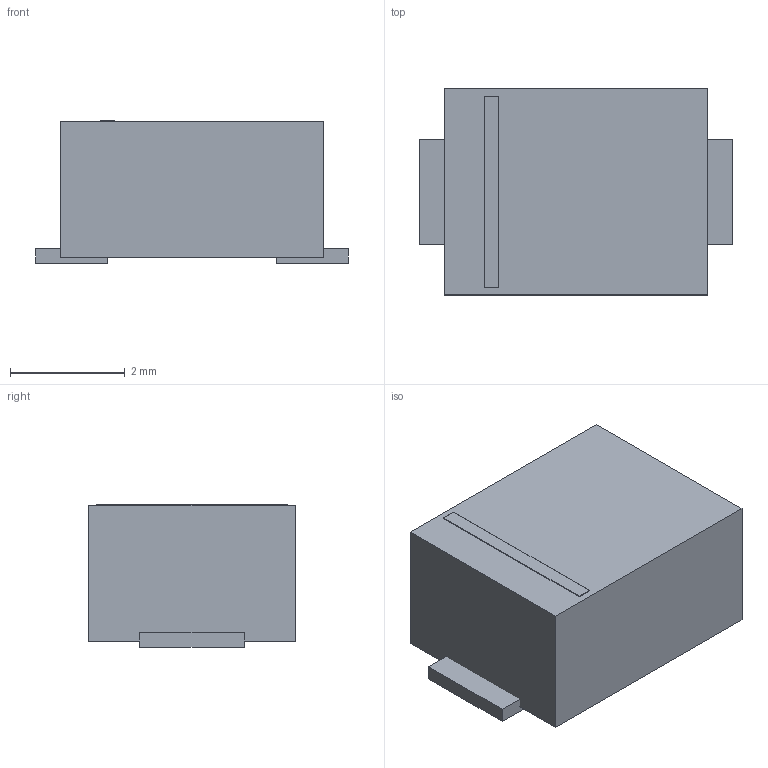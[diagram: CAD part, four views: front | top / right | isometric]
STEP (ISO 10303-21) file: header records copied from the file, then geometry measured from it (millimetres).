
FILE_DESCRIPTION(('FreeCAD Model'),'2;1');
FILE_NAME('Open CASCADE Shape Model','2026-09-21T21:53:17',('FreeCAD'),( 'FreeCAD'),'Open CASCADE STEP processor 7.8','FreeCAD','Unknown');
FILE_SCHEMA(('AUTOMOTIVE_DESIGN { 1 0 10303 214 1 1 1 1 }'));
Length unit declared in the file: millimetre
Products named in the file (1): Open CASCADE STEP translator 7.8 7
Bounding box: 5.46 x 3.6 x 2.5 mm (x, y, z)
Volume: 40.6 mm3; surface area: 86.4 mm2
Topology: 4 solids, 4 shells, 24 faces, 48 edges, 32 vertices
Faces by surface type: plane 24
Entity records: 616 total; most frequent: CARTESIAN_POINT 105, DIRECTION 98, ORIENTED_EDGE 96, EDGE_CURVE 48, LINE 48, VECTOR 48, VERTEX_POINT 32, AXIS2_PLACEMENT_3D 25
